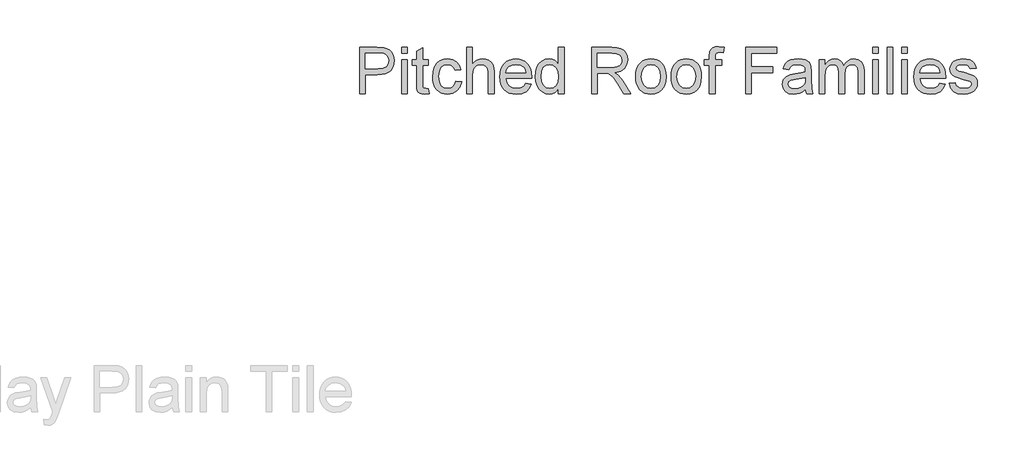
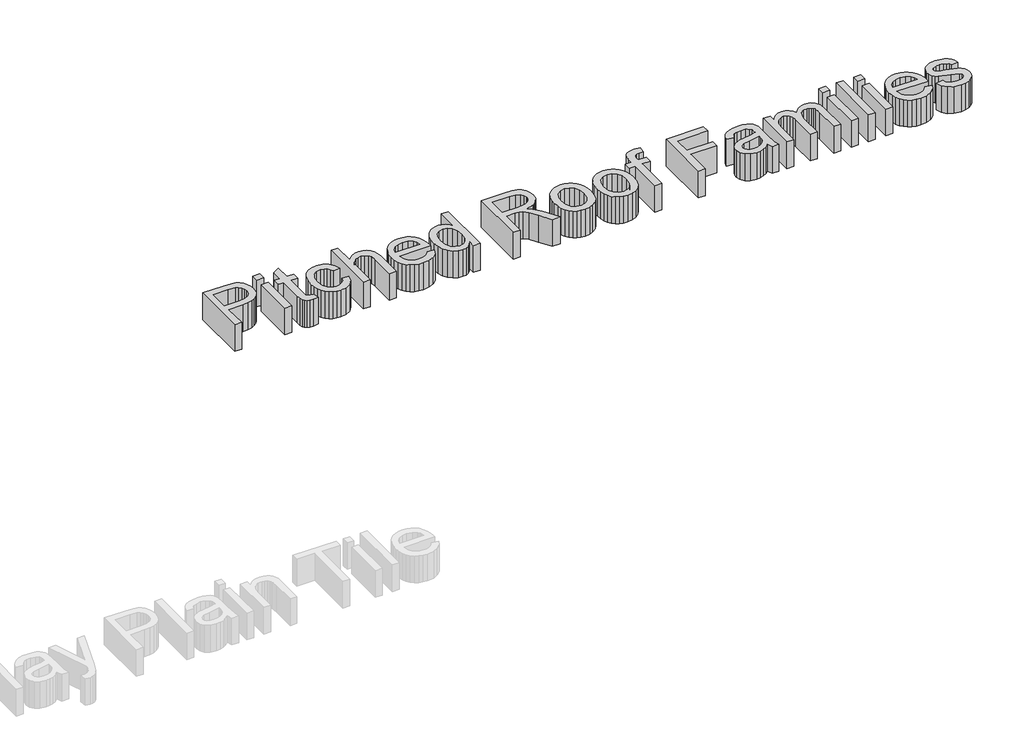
# One storey, part 4 of 4: 1 proxy.
"""IFC4 building model written with IfcOpenShell, lengths in millimetres."""

from ifc_helpers import new_model, si_unit, frame, origin, place, context, project, spatial, polyline, outline, extrude, element, save

model = new_model("IFC4")

# Units and contexts
model_context = context("Model", 3, world=origin())
ifc_project = project(units=[si_unit("LENGTHUNIT", "METRE", prefix="MILLI")], contexts=[model_context])

# Site, building, storey
site = spatial("IfcSite", under=ifc_project)
building = spatial("IfcBuilding", under=site)
storey = spatial("IfcBuildingStorey", under=building, Name="Marley Clay Plain Tile", Elevation=3000.0)

# Proxy
placement = place(None, origin())
element("IfcBuildingElementProxy", 1, Name="600mm Arial", ObjectType="600mm Arial", at=placement, inside=storey, context=model_context, shape_type="SweptSolid", body=[
    extrude(outline(polyline([(-10896.0304047, 7604.3149333), (-10896.0304047, 7899.6995487), (-10786.5592509, 7899.6995487), (-10742.4246355, 7896.8870487), (-10722.7461499, 7891.6316401), (-10706.5472316, 7883.0769526), (-10693.5033614, 7870.835366), (-10683.2900201, 7854.5192603), (-10676.6914624, 7835.273467), (-10674.4919432, 7814.242818), (-10680.432448, 7779.429116), (-10687.858079, 7764.1992483), (-10698.2539624, 7750.4207026), (-10712.5260477, 7738.9994285), (-10731.5802845, 7730.8413757), (-10755.4166727, 7725.9465439), (-10784.0352124, 7724.3149333), (-10859.1073278, 7724.3149333), (-10859.1073278, 7604.3149333), (-10896.0304047, 7604.3149333)]), holes=[polyline([(-10859.1073278, 7761.2380103), (-10781.8717509, 7761.2380103), (-10749.1313663, 7764.6274333), (-10727.4967509, 7774.7957026), (-10715.4354528, 7791.1118083), (-10711.4150201, 7812.944741), (-10713.7858134, 7829.5312795), (-10720.8981932, 7843.5216641), (-10731.8687461, 7854.0505103), (-10745.8140586, 7860.2524333), (-10782.7371355, 7862.7764718), (-10859.1073278, 7862.7764718), (-10859.1073278, 7761.2380103)])]), frame((0.0, 0.0, 3000.0), z_axis=(0.0, 0.0, 1.0), x_axis=(1.0, 0.0, 0.0)), (0.0, 0.0, 1.0), 150.0),
    extrude(outline(polyline([(-10628.338097, 7604.3149333), (-10628.338097, 7821.2380103), (-10591.4150201, 7821.2380103), (-10591.4150201, 7604.3149333), (-10628.338097, 7604.3149333)])), frame((0.0, 0.0, 3000.0), z_axis=(0.0, 0.0, 1.0), x_axis=(1.0, 0.0, 0.0)), (0.0, 0.0, 1.0), 150.0),
    extrude(outline(polyline([(-10628.338097, 7862.7764718), (-10628.338097, 7899.6995487), (-10591.4150201, 7899.6995487), (-10591.4150201, 7862.7764718), (-10628.338097, 7862.7764718)])), frame((0.0, 0.0, 3000.0), z_axis=(0.0, 0.0, 1.0), x_axis=(1.0, 0.0, 0.0)), (0.0, 0.0, 1.0), 150.0),
    extrude(outline(polyline([(-10457.5688663, 7635.1082026), (-10452.9534816, 7603.2332026), (-10480.5736739, 7599.6995487), (-10498.2960297, 7601.2320007), (-10511.5111739, 7605.8293564), (-10520.8501163, 7612.914693), (-10526.9438663, 7621.9110872), (-10530.2972316, 7637.3618083), (-10531.4150201, 7663.8101257), (-10531.4150201, 7784.3149333), (-10559.1073278, 7784.3149333), (-10559.1073278, 7821.2380103), (-10531.4150201, 7821.2380103), (-10531.4150201, 7873.9543564), (-10494.4919432, 7895.6610872), (-10494.4919432, 7821.2380103), (-10457.5688663, 7821.2380103), (-10457.5688663, 7784.3149333), (-10494.4919432, 7784.3149333), (-10494.4919432, 7664.8918564), (-10492.5448278, 7645.8533949), (-10486.2347316, 7639.1106064), (-10473.650597, 7636.6226257), (-10457.5688663, 7635.1082026)])), frame((0.0, 0.0, 3000.0), z_axis=(0.0, 0.0, 1.0), x_axis=(1.0, 0.0, 0.0)), (0.0, 0.0, 1.0), 150.0),
    extrude(outline(polyline([(-10282.1842509, 7682.7764718), (-10245.2611739, 7678.1610872), (-10255.5556451, 7645.3215439), (-10274.900597, 7620.5048372), (-10301.4751163, 7604.9008708), (-10333.4582893, 7599.6995487), (-10354.1666727, 7601.5137014), (-10372.7341307, 7606.9561593), (-10389.1606631, 7616.0269225), (-10403.4462701, 7628.725991), (-10415.0095213, 7644.8144826), (-10423.2689864, 7664.0535151), (-10428.2246655, 7686.4430884), (-10429.8765586, 7711.9832026), (-10427.0550441, 7744.8407747), (-10418.5905009, 7773.3173372), (-10404.3477124, 7796.3131305), (-10384.1914624, 7812.7283949), (-10360.0778807, 7822.5721449), (-10333.963097, 7825.8533949), (-10302.7641788, 7821.3461833), (-10277.8212701, 7807.8245487), (-10259.9276403, 7786.0096449), (-10249.8765586, 7756.6226257), (-10286.7996355, 7752.007241), (-10293.4973518, 7768.1160151), (-10303.9270393, 7779.663491), (-10317.5117749, 7786.6136112), (-10333.6746355, 7788.930318), (-10357.5358134, 7784.3690199), (-10376.4751163, 7770.6851257), (-10388.8338903, 7747.1394526), (-10392.9534816, 7712.992818), (-10388.9240345, 7678.3864478), (-10376.8356932, 7654.7596449), (-10358.2389384, 7641.1568805), (-10334.6842509, 7636.6226257), (-10315.5646595, 7639.4531545), (-10299.8885778, 7647.944741), (-10288.4853326, 7662.3137314), (-10282.1842509, 7682.7764718)])), frame((0.0, 0.0, 3000.0), z_axis=(0.0, 0.0, 1.0), x_axis=(1.0, 0.0, 0.0)), (0.0, 0.0, 1.0), 150.0),
    extrude(outline(polyline([(-10212.9534816, 7604.3149333), (-10212.9534816, 7899.6995487), (-10176.0304047, 7899.6995487), (-10176.0304047, 7791.0937795), (-10162.4682052, 7806.3011112), (-10147.2383374, 7817.163491), (-10130.3408013, 7823.6809189), (-10111.775597, 7825.8533949), (-10089.4739143, 7823.4826016), (-10070.3092509, 7816.3702218), (-10055.2191066, 7805.0751497), (-10045.1409816, 7790.1562795), (-10039.4618951, 7769.6574814), (-10037.5688663, 7741.6226257), (-10037.5688663, 7604.3149333), (-10074.4919432, 7604.3149333), (-10074.4919432, 7737.8005103), (-10077.4306451, 7760.913491), (-10086.2467509, 7776.742818), (-10100.4534816, 7785.883443), (-10119.5640586, 7788.930318), (-10135.1680249, 7786.8750295), (-10149.8164624, 7780.7091641), (-10161.9498759, 7771.0276737), (-10170.0087701, 7758.4255103), (-10174.5249961, 7741.6767122), (-10176.0304047, 7719.555318), (-10176.0304047, 7604.3149333), (-10212.9534816, 7604.3149333)])), frame((0.0, 0.0, 3000.0), z_axis=(0.0, 0.0, 1.0), x_axis=(1.0, 0.0, 0.0)), (0.0, 0.0, 1.0), 150.0),
    extrude(outline(polyline([(-9834.9246355, 7668.930318), (-9798.7227124, 7664.3149333), (-9811.7665826, 7637.0372891), (-9832.5808855, 7616.6466641), (-9860.6968711, 7603.9363276), (-9895.6457893, 7599.6995487), (-9918.5559456, 7601.527223), (-9938.9691066, 7607.0102458), (-9956.8852725, 7616.1486172), (-9972.3044432, 7628.9423372), (-9984.7037821, 7645.035336), (-9993.5604528, 7664.0715439), (-9998.8744552, 7686.050961), (-10000.6457893, 7710.9735872), (-9998.8564263, 7736.7413156), (-9993.4883374, 7759.4531545), (-9984.5415225, 7779.109104), (-9972.0159816, 7795.7091641), (-9956.6373759, 7808.8972651), (-9939.1313663, 7818.3173372), (-9919.4979528, 7823.9693805), (-9897.7371355, 7825.8533949), (-9876.6771896, 7823.9738877), (-9857.6319672, 7818.335366), (-9840.6014684, 7808.93783), (-9825.5856932, 7795.7812795), (-9813.3283314, 7779.2172771), (-9804.573073, 7759.5973853), (-9799.3199179, 7736.921604), (-9797.5688663, 7711.1899333), (-9797.7852124, 7701.2380103), (-9963.7227124, 7701.2380103), (-9957.3314864, 7673.5997891), (-9942.4847316, 7653.2812795), (-9921.057448, 7640.7872891), (-9894.9246355, 7636.6226257), (-9875.2731932, 7638.5517122), (-9858.7227124, 7644.3389718), (-9845.2731932, 7654.3449814), (-9834.9246355, 7668.930318)]), holes=[polyline([(-9963.7227124, 7738.1610872), (-9834.4919432, 7738.1610872), (-9839.4859336, 7757.6682987), (-9849.275597, 7771.6226257), (-9870.8020393, 7784.6033949), (-9897.8813663, 7788.930318), (-9922.7701884, 7785.4777939), (-9943.3501163, 7775.1202218), (-9957.6560057, 7758.9753901), (-9963.7227124, 7738.1610872)])]), frame((0.0, 0.0, 3000.0), z_axis=(0.0, 0.0, 1.0), x_axis=(1.0, 0.0, 0.0)), (0.0, 0.0, 1.0), 150.0),
    extrude(outline(polyline([(-9626.7996355, 7604.3149333), (-9626.7996355, 7639.1466641), (-9637.846811, 7621.8885511), (-9651.228722, 7609.5613276), (-9666.9453687, 7602.1649934), (-9684.9967509, 7599.6995487), (-9708.8669432, 7603.2692603), (-9730.7179047, 7613.9783949), (-9749.2155009, 7631.0787555), (-9763.025597, 7653.8221449), (-9771.6253566, 7681.289092), (-9774.4919432, 7712.5601257), (-9771.8507172, 7743.4435391), (-9763.9270393, 7771.3341641), (-9750.7299239, 7794.6454622), (-9732.2683855, 7811.7908949), (-9709.9396595, 7822.3377699), (-9685.1409816, 7825.8533949), (-9667.0760778, 7823.3383708), (-9651.1025201, 7815.7932987), (-9637.5628566, 7804.2277939), (-9626.7996355, 7789.6514718), (-9626.7996355, 7899.6995487), (-9589.8765586, 7899.6995487), (-9589.8765586, 7604.3149333), (-9626.7996355, 7604.3149333)]), holes=[polyline([(-9737.5688663, 7712.7043564), (-9733.4042028, 7679.3059189), (-9720.9102124, 7655.5529141), (-9702.7551643, 7641.3551978), (-9681.6073278, 7636.6226257), (-9660.4685057, 7641.1388516), (-9642.7731932, 7654.6875295), (-9630.7930249, 7677.5210632), (-9626.7996355, 7709.8918564), (-9630.8651403, 7745.2824814), (-9643.0616547, 7769.819741), (-9661.2076884, 7784.1526737), (-9683.1217509, 7788.930318), (-9704.4859336, 7784.3419766), (-9721.9919432, 7770.5769526), (-9733.6746355, 7746.9321208), (-9737.5688663, 7712.7043564)])]), frame((0.0, 0.0, 3000.0), z_axis=(0.0, 0.0, 1.0), x_axis=(1.0, 0.0, 0.0)), (0.0, 0.0, 1.0), 150.0),
    extrude(outline(polyline([(-9414.4919432, 7604.3149333), (-9414.4919432, 7899.6995487), (-9287.2082893, 7899.6995487), (-9252.9985538, 7897.7073612), (-9228.1097316, 7891.7307987), (-9209.9186259, 7880.6971449), (-9195.8020393, 7863.5336833), (-9186.7425441, 7842.2506305), (-9183.7227124, 7818.8582026), (-9188.7257172, 7789.7596449), (-9203.7347316, 7765.6370487), (-9215.1041727, 7755.8068204), (-9229.2004768, 7747.9507507), (-9265.5736739, 7738.1610872), (-9244.588097, 7722.367818), (-9214.6602124, 7684.3630103), (-9165.4054047, 7604.3149333), (-9208.3140586, 7604.3149333), (-9246.7515586, 7665.5408949), (-9274.5159816, 7706.069741), (-9294.0231932, 7725.2163757), (-9311.5832893, 7732.2476257), (-9333.0015586, 7733.5457026), (-9377.5688663, 7733.5457026), (-9377.5688663, 7604.3149333), (-9414.4919432, 7604.3149333)]), holes=[polyline([(-9377.5688663, 7770.4687795), (-9294.9246355, 7770.4687795), (-9271.1896595, 7771.7758708), (-9252.7731932, 7775.6971449), (-9238.9090105, 7782.4940199), (-9228.8308855, 7792.4279141), (-9222.6920634, 7804.4441401), (-9220.6457893, 7817.4880103), (-9224.5490345, 7835.4988276), (-9236.2587701, 7850.0120487), (-9256.4060057, 7859.585366), (-9285.6217509, 7862.7764718), (-9377.5688663, 7862.7764718), (-9377.5688663, 7770.4687795)])]), frame((0.0, 0.0, 3000.0), z_axis=(0.0, 0.0, 1.0), x_axis=(1.0, 0.0, 0.0)), (0.0, 0.0, 1.0), 150.0),
    extrude(outline(polyline([(-9132.9534816, 7712.7764718), (-9130.9567869, 7740.8699213), (-9124.9667028, 7765.0781545), (-9114.9832292, 7785.4011713), (-9101.0063663, 7801.8389718), (-9086.9348518, 7812.3452819), (-9071.4030009, 7819.8497891), (-9054.4108134, 7824.3524934), (-9035.9582893, 7825.8533949), (-9015.5879468, 7824.0257206), (-8997.1692268, 7818.5426978), (-8980.7021295, 7809.4043264), (-8966.1866547, 7796.6106064), (-8954.3394492, 7780.5942302), (-8945.8771595, 7761.7878901), (-8940.7997857, 7740.191586), (-8939.1073278, 7715.805318), (-8942.1001163, 7678.5036353), (-8951.0784816, 7650.1082026), (-8965.7810057, 7628.8431785), (-8985.9462701, 7612.9327218), (-9009.8975922, 7603.007842), (-9035.9582893, 7599.6995487), (-9056.6261078, 7601.5204622), (-9075.2161018, 7606.9832026), (-9091.7282713, 7616.0877699), (-9106.1626163, 7628.8341641), (-9117.8836199, 7645.0060391), (-9126.2557653, 7664.3870487), (-9131.2790526, 7686.977193), (-9132.9534816, 7712.7764718)]), holes=[polyline([(-9096.0304047, 7712.8485872), (-9091.7575682, 7679.4321208), (-9078.9390586, 7655.6250295), (-9059.6481932, 7641.3732266), (-9035.9582893, 7636.6226257), (-9012.3765586, 7641.4002699), (-8993.1217509, 7655.7332026), (-8980.3032413, 7679.8557987), (-8976.0304047, 7714.0024333), (-8980.3302845, 7746.445342), (-8993.2299239, 7769.9279141), (-9012.5117749, 7784.179717), (-9035.9582893, 7788.930318), (-9059.6481932, 7784.1977458), (-9078.9390586, 7770.0000295), (-9091.7575682, 7746.2470247), (-9096.0304047, 7712.8485872)])]), frame((0.0, 0.0, 3000.0), z_axis=(0.0, 0.0, 1.0), x_axis=(1.0, 0.0, 0.0)), (0.0, 0.0, 1.0), 150.0),
    extrude(outline(polyline([(-8906.7996355, 7712.7764718), (-8904.8029408, 7740.8699213), (-8898.8128566, 7765.0781545), (-8888.8293831, 7785.4011713), (-8874.8525201, 7801.8389718), (-8860.7810057, 7812.3452819), (-8845.2491547, 7819.8497891), (-8828.2569672, 7824.3524934), (-8809.8044432, 7825.8533949), (-8789.4341006, 7824.0257206), (-8771.0153807, 7818.5426978), (-8754.5482833, 7809.4043264), (-8740.0328086, 7796.6106064), (-8728.185603, 7780.5942302), (-8719.7233134, 7761.7878901), (-8714.6459396, 7740.191586), (-8712.9534816, 7715.805318), (-8715.9462701, 7678.5036353), (-8724.9246355, 7650.1082026), (-8739.6271595, 7628.8431785), (-8759.7924239, 7612.9327218), (-8783.7437461, 7603.007842), (-8809.8044432, 7599.6995487), (-8830.4722617, 7601.5204622), (-8849.0622557, 7606.9832026), (-8865.5744251, 7616.0877699), (-8880.0087701, 7628.8341641), (-8891.7297737, 7645.0060391), (-8900.1019191, 7664.3870487), (-8905.1252064, 7686.977193), (-8906.7996355, 7712.7764718)]), holes=[polyline([(-8869.8765586, 7712.8485872), (-8865.603722, 7679.4321208), (-8852.7852124, 7655.6250295), (-8833.494347, 7641.3732266), (-8809.8044432, 7636.6226257), (-8786.2227124, 7641.4002699), (-8766.9679047, 7655.7332026), (-8754.1493951, 7679.8557987), (-8749.8765586, 7714.0024333), (-8754.1764384, 7746.445342), (-8767.0760778, 7769.9279141), (-8786.3579288, 7784.179717), (-8809.8044432, 7788.930318), (-8833.494347, 7784.1977458), (-8852.7852124, 7770.0000295), (-8865.603722, 7746.2470247), (-8869.8765586, 7712.8485872)])]), frame((0.0, 0.0, 3000.0), z_axis=(0.0, 0.0, 1.0), x_axis=(1.0, 0.0, 0.0)), (0.0, 0.0, 1.0), 150.0),
    extrude(outline(polyline([(-8662.1842509, 7604.3149333), (-8662.1842509, 7784.3149333), (-8694.4919432, 7784.3149333), (-8694.4919432, 7821.2380103), (-8662.1842509, 7821.2380103), (-8662.1842509, 7843.0889718), (-8658.2900201, 7873.882241), (-8650.8621355, 7886.1598853), (-8639.3957893, 7895.8774333), (-8623.3501163, 7902.2055583), (-8602.1842509, 7904.3149333), (-8568.5063663, 7900.2764718), (-8573.9150201, 7865.6610872), (-8595.1890586, 7867.3918564), (-8609.2245153, 7865.8594045), (-8618.4462701, 7861.2620487), (-8623.557448, 7852.4820007), (-8625.2611739, 7838.4014718), (-8625.2611739, 7821.2380103), (-8583.7227124, 7821.2380103), (-8583.7227124, 7784.3149333), (-8625.2611739, 7784.3149333), (-8625.2611739, 7604.3149333), (-8662.1842509, 7604.3149333)])), frame((0.0, 0.0, 3000.0), z_axis=(0.0, 0.0, 1.0), x_axis=(1.0, 0.0, 0.0)), (0.0, 0.0, 1.0), 150.0),
    extrude(outline(polyline([(-8431.4150201, 7604.3149333), (-8431.4150201, 7899.6995487), (-8232.9534816, 7899.6995487), (-8232.9534816, 7862.7764718), (-8394.4919432, 7862.7764718), (-8394.4919432, 7775.0841641), (-8256.0304047, 7775.0841641), (-8256.0304047, 7738.1610872), (-8394.4919432, 7738.1610872), (-8394.4919432, 7604.3149333), (-8431.4150201, 7604.3149333)])), frame((0.0, 0.0, 3000.0), z_axis=(0.0, 0.0, 1.0), x_axis=(1.0, 0.0, 0.0)), (0.0, 0.0, 1.0), 150.0),
    extrude(outline(polyline([(-8048.338097, 7632.007241), (-8065.979323, 7616.8810391), (-8084.1433855, 7606.9832026), (-8103.244948, 7601.5204622), (-8123.6986739, 7599.6995487), (-8154.5550441, 7604.0805583), (-8177.3164624, 7617.2235872), (-8191.3519191, 7637.1815199), (-8196.0304047, 7662.007241), (-8194.2635778, 7677.3137314), (-8188.963097, 7691.2139718), (-8180.7870153, 7703.1130103), (-8170.3933855, 7712.4158949), (-8144.5400201, 7724.5312795), (-8112.5929047, 7730.0841641), (-8074.8405009, 7735.9255103), (-8048.5544432, 7742.7764718), (-8048.338097, 7750.9976257), (-8050.8801643, 7767.475991), (-8058.5063663, 7778.257241), (-8075.5616547, 7786.2620487), (-8099.3236739, 7788.930318), (-8121.3188663, 7787.1544766), (-8136.6794432, 7781.8269526), (-8147.1542028, 7771.9741882), (-8154.4919432, 7756.6226257), (-8191.4150201, 7761.2380103), (-8185.0057653, 7781.430318), (-8175.4414624, 7797.2957026), (-8161.8296836, 7809.429116), (-8143.2780009, 7818.4255103), (-8120.588698, 7823.9964237), (-8094.5640586, 7825.8533949), (-8069.6031211, 7824.2127699), (-8049.8164624, 7819.2908949), (-8034.8975922, 7811.8900535), (-8024.5400201, 7802.8125295), (-8017.6710297, 7791.5895728), (-8013.2179047, 7777.7524333), (-8011.4150201, 7745.444741), (-8011.4150201, 7699.507241), (-8009.5400201, 7635.3606064), (-8002.1842509, 7604.3149333), (-8039.1073278, 7604.3149333), (-8048.338097, 7632.007241)]), holes=[polyline([(-8048.338097, 7705.8533949), (-8107.9054047, 7694.5312795), (-8139.6722316, 7688.5457026), (-8154.0592509, 7678.8101257), (-8159.1073278, 7664.6033949), (-8156.3579288, 7653.6238276), (-8148.1097316, 7644.6274333), (-8134.5430249, 7638.6238276), (-8115.838097, 7636.6226257), (-8096.0063663, 7638.8311593), (-8078.4823278, 7645.4567603), (-8064.275597, 7655.2193805), (-8054.3957893, 7666.8389718), (-8050.0147797, 7678.8101257), (-8048.5544432, 7695.3966641), (-8048.338097, 7705.8533949)])]), frame((0.0, 0.0, 3000.0), z_axis=(0.0, 0.0, 1.0), x_axis=(1.0, 0.0, 0.0)), (0.0, 0.0, 1.0), 150.0),
    extrude(outline(polyline([(-7960.6457893, 7604.3149333), (-7960.6457893, 7821.2380103), (-7923.7227124, 7821.2380103), (-7923.7227124, 7785.5408949), (-7912.6169432, 7801.9381305), (-7898.338097, 7814.7836833), (-7881.3729528, 7823.085967), (-7862.2082893, 7825.8533949), (-7841.6734336, 7823.0318805), (-7825.213097, 7814.5673372), (-7812.9174239, 7801.0186593), (-7804.8765586, 7782.944741), (-7791.4180249, 7801.7172771), (-7776.0664624, 7815.1262314), (-7758.8218711, 7823.171604), (-7739.6842509, 7825.8533949), (-7711.9288422, 7821.3912555), (-7691.4030009, 7808.0048372), (-7678.7197076, 7785.3335632), (-7674.4919432, 7753.0168564), (-7674.4919432, 7604.3149333), (-7711.4150201, 7604.3149333), (-7711.4150201, 7737.1514718), (-7714.8405009, 7767.9807987), (-7719.6542028, 7776.4813997), (-7727.244347, 7783.1610872), (-7737.0069672, 7787.4880103), (-7748.338097, 7788.930318), (-7768.3411018, 7785.2344045), (-7784.6481932, 7774.1466641), (-7795.4925441, 7754.9098853), (-7799.1073278, 7726.7668564), (-7799.1073278, 7604.3149333), (-7836.0304047, 7604.3149333), (-7836.0304047, 7741.2620487), (-7838.166823, 7762.1394526), (-7844.5760778, 7777.0312795), (-7855.8531211, 7785.9555583), (-7872.5929047, 7788.930318), (-7886.8176643, 7786.9471449), (-7899.9246355, 7780.9976257), (-7910.7419432, 7771.225991), (-7918.0977124, 7757.7764718), (-7922.3164624, 7739.116616), (-7923.7227124, 7713.7139718), (-7923.7227124, 7604.3149333), (-7960.6457893, 7604.3149333)])), frame((0.0, 0.0, 3000.0), z_axis=(0.0, 0.0, 1.0), x_axis=(1.0, 0.0, 0.0)), (0.0, 0.0, 1.0), 150.0),
    extrude(outline(polyline([(-7619.1073278, 7604.3149333), (-7619.1073278, 7821.2380103), (-7582.1842509, 7821.2380103), (-7582.1842509, 7604.3149333), (-7619.1073278, 7604.3149333)])), frame((0.0, 0.0, 3000.0), z_axis=(0.0, 0.0, 1.0), x_axis=(1.0, 0.0, 0.0)), (0.0, 0.0, 1.0), 150.0),
    extrude(outline(polyline([(-7619.1073278, 7862.7764718), (-7619.1073278, 7899.6995487), (-7582.1842509, 7899.6995487), (-7582.1842509, 7862.7764718), (-7619.1073278, 7862.7764718)])), frame((0.0, 0.0, 3000.0), z_axis=(0.0, 0.0, 1.0), x_axis=(1.0, 0.0, 0.0)), (0.0, 0.0, 1.0), 150.0),
    extrude(outline(polyline([(-7526.7996355, 7604.3149333), (-7526.7996355, 7899.6995487), (-7489.8765586, 7899.6995487), (-7489.8765586, 7604.3149333), (-7526.7996355, 7604.3149333)])), frame((0.0, 0.0, 3000.0), z_axis=(0.0, 0.0, 1.0), x_axis=(1.0, 0.0, 0.0)), (0.0, 0.0, 1.0), 150.0),
    extrude(outline(polyline([(-7434.4919432, 7604.3149333), (-7434.4919432, 7821.2380103), (-7397.5688663, 7821.2380103), (-7397.5688663, 7604.3149333), (-7434.4919432, 7604.3149333)])), frame((0.0, 0.0, 3000.0), z_axis=(0.0, 0.0, 1.0), x_axis=(1.0, 0.0, 0.0)), (0.0, 0.0, 1.0), 150.0),
    extrude(outline(polyline([(-7434.4919432, 7862.7764718), (-7434.4919432, 7899.6995487), (-7397.5688663, 7899.6995487), (-7397.5688663, 7862.7764718), (-7434.4919432, 7862.7764718)])), frame((0.0, 0.0, 3000.0), z_axis=(0.0, 0.0, 1.0), x_axis=(1.0, 0.0, 0.0)), (0.0, 0.0, 1.0), 150.0),
    extrude(outline(polyline([(-7190.3092509, 7668.930318), (-7154.1073278, 7664.3149333), (-7167.151198, 7637.0372891), (-7187.9655009, 7616.6466641), (-7216.0814864, 7603.9363276), (-7251.0304047, 7599.6995487), (-7273.940561, 7601.527223), (-7294.353722, 7607.0102458), (-7312.2698879, 7616.1486172), (-7327.6890586, 7628.9423372), (-7340.0883975, 7645.035336), (-7348.9450682, 7664.0715439), (-7354.2590706, 7686.050961), (-7356.0304047, 7710.9735872), (-7354.2410417, 7736.7413156), (-7348.8729528, 7759.4531545), (-7339.9261379, 7779.109104), (-7327.400597, 7795.7091641), (-7312.0219913, 7808.8972651), (-7294.5159816, 7818.3173372), (-7274.8825682, 7823.9693805), (-7253.1217509, 7825.8533949), (-7232.061805, 7823.9738877), (-7213.0165826, 7818.335366), (-7195.9860838, 7808.93783), (-7180.9703086, 7795.7812795), (-7168.7129468, 7779.2172771), (-7159.9576884, 7759.5973853), (-7154.7045333, 7736.921604), (-7152.9534816, 7711.1899333), (-7153.1698278, 7701.2380103), (-7319.1073278, 7701.2380103), (-7312.7161018, 7673.5997891), (-7297.869347, 7653.2812795), (-7276.4420634, 7640.7872891), (-7250.3092509, 7636.6226257), (-7230.6578086, 7638.5517122), (-7214.1073278, 7644.3389718), (-7200.6578086, 7654.3449814), (-7190.3092509, 7668.930318)]), holes=[polyline([(-7319.1073278, 7738.1610872), (-7189.8765586, 7738.1610872), (-7194.8705489, 7757.6682987), (-7204.6602124, 7771.6226257), (-7226.1866547, 7784.6033949), (-7253.2659816, 7788.930318), (-7278.1548038, 7785.4777939), (-7298.7347316, 7775.1202218), (-7313.0406211, 7758.9753901), (-7319.1073278, 7738.1610872)])]), frame((0.0, 0.0, 3000.0), z_axis=(0.0, 0.0, 1.0), x_axis=(1.0, 0.0, 0.0)), (0.0, 0.0, 1.0), 150.0),
    extrude(outline(polyline([(-7129.8765586, 7668.930318), (-7092.9534816, 7673.5457026), (-7087.1301643, 7657.7524333), (-7075.8621355, 7646.1418564), (-7059.0772797, 7639.0024333), (-7036.7034816, 7636.6226257), (-7014.6001163, 7638.804116), (-6999.0592509, 7645.3485872), (-6989.8645393, 7654.8317603), (-6986.7996355, 7665.8293564), (-6989.8825682, 7675.2404141), (-6999.1313663, 7682.4158949), (-7037.1361739, 7692.944741), (-7092.7371355, 7711.0096449), (-7106.8086499, 7720.0871689), (-7117.0039624, 7732.1033949), (-7123.1968711, 7746.2920968), (-7125.2611739, 7761.8870487), (-7123.6025201, 7776.1929382), (-7118.6265586, 7789.399068), (-7110.7840105, 7800.9826016), (-7100.525597, 7810.4207026), (-7077.0520393, 7821.3461833), (-7045.2852124, 7825.8533949), (-7021.2527605, 7824.0414958), (-7000.3573278, 7818.6057987), (-6983.5544432, 7810.0781545), (-6971.7996355, 7798.9904141), (-6964.0111739, 7784.5222651), (-6959.1073278, 7765.8533949), (-6996.0304047, 7761.2380103), (-7000.6908614, 7772.8576016), (-7009.9126163, 7781.6106064), (-7023.7858134, 7787.1003901), (-7042.400597, 7788.930318), (-7063.6025201, 7787.1815199), (-7077.7371355, 7781.9351257), (-7085.6878566, 7774.3630103), (-7088.338097, 7765.6370487), (-7083.9390586, 7754.8918564), (-7070.1650201, 7746.742818), (-7038.3621355, 7738.882241), (-6984.1674239, 7721.5024333), (-6969.8525201, 7713.1911353), (-6958.9991547, 7701.8149333), (-6952.1572076, 7687.3377699), (-6949.8765586, 7669.7235872), (-6952.5538422, 7651.5144526), (-6960.5856932, 7634.3870487), (-6973.6656211, 7619.6845247), (-6991.4871355, 7608.7500295), (-7013.0135778, 7601.9621689), (-7037.2082893, 7599.6995487), (-7074.4378566, 7604.0625295), (-7101.6073278, 7617.1514718), (-7119.744347, 7638.8221449), (-7129.8765586, 7668.930318)])), frame((0.0, 0.0, 3000.0), z_axis=(0.0, 0.0, 1.0), x_axis=(1.0, 0.0, 0.0)), (0.0, 0.0, 1.0), 150.0),
])

save(model, "model.ifc")
